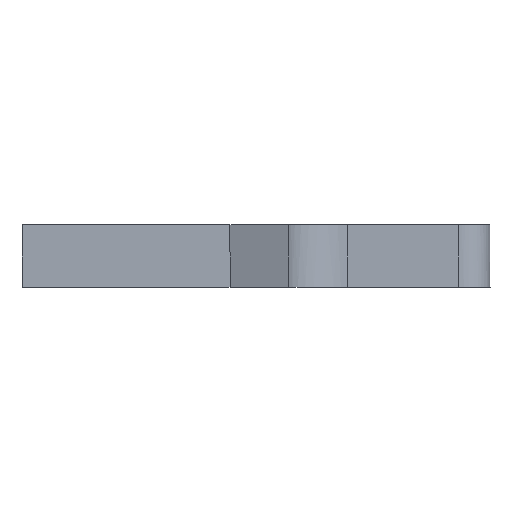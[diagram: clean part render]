
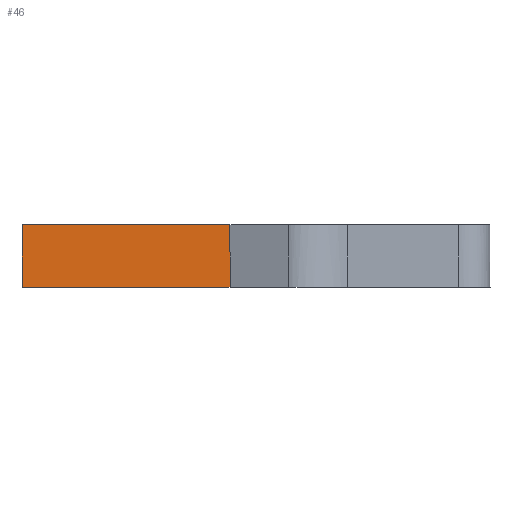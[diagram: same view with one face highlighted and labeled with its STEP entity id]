
A CAD part, left-side view. The second image highlights one B-rep face of the part: STEP entity #46.
In plain terms, the highlighted free-form (B-spline) face has degree [2, 1] with [3, 2] control points.
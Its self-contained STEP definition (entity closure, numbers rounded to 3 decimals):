
#46=ADVANCED_FACE('',(#84),#1423,.T.);
#84=FACE_OUTER_BOUND('',#122,.T.);
#122=EDGE_LOOP('',(#202,#203,#204,#205));
#202=ORIENTED_EDGE('',*,*,#1083,.T.);
#203=ORIENTED_EDGE('',*,*,#1084,.T.);
#204=ORIENTED_EDGE('',*,*,#1085,.T.);
#205=ORIENTED_EDGE('',*,*,#1081,.F.);
#379=(
BOUNDED_CURVE()
B_SPLINE_CURVE(1,(#2036,#2037),.UNSPECIFIED.,.F.,.F.)
B_SPLINE_CURVE_WITH_KNOTS((2,2),(0.,6.),.UNSPECIFIED.)
CURVE()
GEOMETRIC_REPRESENTATION_ITEM()
RATIONAL_B_SPLINE_CURVE((1.,1.))
REPRESENTATION_ITEM('')
);
#381=(
BOUNDED_CURVE()
B_SPLINE_CURVE(2,(#2047,#2048,#2049),.UNSPECIFIED.,.F.,.F.)
B_SPLINE_CURVE_WITH_KNOTS((3,3),(188.175,208.175),
 .UNSPECIFIED.)
CURVE()
GEOMETRIC_REPRESENTATION_ITEM()
RATIONAL_B_SPLINE_CURVE((1.,1.,1.))
REPRESENTATION_ITEM('')
);
#382=(
BOUNDED_CURVE()
B_SPLINE_CURVE(1,(#2052,#2053),.UNSPECIFIED.,.F.,.F.)
B_SPLINE_CURVE_WITH_KNOTS((2,2),(0.,6.),.UNSPECIFIED.)
CURVE()
GEOMETRIC_REPRESENTATION_ITEM()
RATIONAL_B_SPLINE_CURVE((1.,1.))
REPRESENTATION_ITEM('')
);
#383=(
BOUNDED_CURVE()
B_SPLINE_CURVE(2,(#2056,#2057,#2058),.UNSPECIFIED.,.F.,.F.)
B_SPLINE_CURVE_WITH_KNOTS((3,3),(-208.175,-188.175),
 .UNSPECIFIED.)
CURVE()
GEOMETRIC_REPRESENTATION_ITEM()
RATIONAL_B_SPLINE_CURVE((1.,1.,1.))
REPRESENTATION_ITEM('')
);
#459=(
BOUNDED_CURVE()
B_SPLINE_CURVE(2,(#2446,#2447,#2448),.UNSPECIFIED.,.F.,.F.)
B_SPLINE_CURVE_WITH_KNOTS((3,3),(188.175,208.175),
 .UNSPECIFIED.)
CURVE()
GEOMETRIC_REPRESENTATION_ITEM()
RATIONAL_B_SPLINE_CURVE((1.,1.,1.))
REPRESENTATION_ITEM('')
);
#480=(
BOUNDED_CURVE()
B_SPLINE_CURVE(2,(#2583,#2584,#2585),.UNSPECIFIED.,.F.,.F.)
B_SPLINE_CURVE_WITH_KNOTS((3,3),(-208.175,-188.175),
 .UNSPECIFIED.)
CURVE()
GEOMETRIC_REPRESENTATION_ITEM()
RATIONAL_B_SPLINE_CURVE((1.,1.,1.))
REPRESENTATION_ITEM('')
);
#549=PCURVE('',#1422,#765);
#552=PCURVE('',#1423,#768);
#553=PCURVE('',#1423,#769);
#554=PCURVE('',#1423,#770);
#555=PCURVE('',#1423,#771);
#559=PCURVE('',#1424,#775);
#645=PCURVE('',#1458,#861);
#678=PCURVE('',#1459,#894);
#765=DEFINITIONAL_REPRESENTATION('',(#1225),#2766);
#768=DEFINITIONAL_REPRESENTATION('',(#1228),#2766);
#769=DEFINITIONAL_REPRESENTATION('',(#1229),#2766);
#770=DEFINITIONAL_REPRESENTATION('',(#1230),#2766);
#771=DEFINITIONAL_REPRESENTATION('',(#1231),#2766);
#775=DEFINITIONAL_REPRESENTATION('',(#1235),#2766);
#861=DEFINITIONAL_REPRESENTATION('',(#459),#2766);
#894=DEFINITIONAL_REPRESENTATION('',(#480),#2766);
#973=SURFACE_CURVE('',#379,(#549,#555),.PCURVE_S1.);
#975=SURFACE_CURVE('',#381,(#552,#645),.PCURVE_S1.);
#976=SURFACE_CURVE('',#382,(#553,#559),.PCURVE_S1.);
#977=SURFACE_CURVE('',#383,(#554,#678),.PCURVE_S1.);
#1081=EDGE_CURVE('',#1370,#1371,#973,.T.);
#1083=EDGE_CURVE('',#1370,#1372,#975,.T.);
#1084=EDGE_CURVE('',#1372,#1373,#976,.T.);
#1085=EDGE_CURVE('',#1373,#1371,#977,.T.);
#1225=B_SPLINE_CURVE_WITH_KNOTS('',1,(#2038,#2039),.UNSPECIFIED.,.F.,.F.,
(2,2),(0.,6.),.UNSPECIFIED.);
#1228=B_SPLINE_CURVE_WITH_KNOTS('',1,(#2050,#2051),.UNSPECIFIED.,.F.,.F.,
(2,2),(188.175,208.175),.UNSPECIFIED.);
#1229=B_SPLINE_CURVE_WITH_KNOTS('',1,(#2054,#2055),.UNSPECIFIED.,.F.,.F.,
(2,2),(0.,6.),.UNSPECIFIED.);
#1230=B_SPLINE_CURVE_WITH_KNOTS('',1,(#2059,#2060),.UNSPECIFIED.,.F.,.F.,
(2,2),(-208.175,-188.175),.UNSPECIFIED.);
#1231=B_SPLINE_CURVE_WITH_KNOTS('',1,(#2061,#2062),.UNSPECIFIED.,.F.,.F.,
(2,2),(0.,6.),.UNSPECIFIED.);
#1235=B_SPLINE_CURVE_WITH_KNOTS('',1,(#2077,#2078),.UNSPECIFIED.,.F.,.F.,
(2,2),(0.,6.),.UNSPECIFIED.);
#1370=VERTEX_POINT('',#1849);
#1371=VERTEX_POINT('',#1850);
#1372=VERTEX_POINT('',#1851);
#1373=VERTEX_POINT('',#1852);
#1422=(
BOUNDED_SURFACE()
B_SPLINE_SURFACE(2,1,((#1517,#1518),(#1519,#1520),(#1521,#1522)),
 .UNSPECIFIED.,.F.,.F.,.F.)
B_SPLINE_SURFACE_WITH_KNOTS((3,3),(2,2),(174.175,188.175),
(0.,6.),.UNSPECIFIED.)
GEOMETRIC_REPRESENTATION_ITEM()
RATIONAL_B_SPLINE_SURFACE(((1.,1.),(1.,1.),(1.,1.)))
REPRESENTATION_ITEM('')
SURFACE()
);
#1423=(
BOUNDED_SURFACE()
B_SPLINE_SURFACE(2,1,((#1523,#1524),(#1525,#1526),(#1527,#1528)),
 .UNSPECIFIED.,.F.,.F.,.F.)
B_SPLINE_SURFACE_WITH_KNOTS((3,3),(2,2),(188.175,208.175),
(0.,6.),.UNSPECIFIED.)
GEOMETRIC_REPRESENTATION_ITEM()
RATIONAL_B_SPLINE_SURFACE(((1.,1.),(1.,1.),(1.,1.)))
REPRESENTATION_ITEM('')
SURFACE()
);
#1424=(
BOUNDED_SURFACE()
B_SPLINE_SURFACE(2,1,((#1529,#1530),(#1531,#1532),(#1533,#1534)),
 .UNSPECIFIED.,.F.,.F.,.F.)
B_SPLINE_SURFACE_WITH_KNOTS((3,3),(2,2),(208.175,225.987),
(0.,6.),.UNSPECIFIED.)
GEOMETRIC_REPRESENTATION_ITEM()
RATIONAL_B_SPLINE_SURFACE(((1.,1.),(1.,1.),(1.,1.)))
REPRESENTATION_ITEM('')
SURFACE()
);
#1458=PLANE('',#1489);
#1459=PLANE('',#1490);
#1489=AXIS2_PLACEMENT_3D('',#1719,#1503,$);
#1490=AXIS2_PLACEMENT_3D('',#1720,#1504,$);
#1503=DIRECTION('',(0.,0.,-1.));
#1504=DIRECTION('',(0.,0.,1.));
#1517=CARTESIAN_POINT('',(-497.,33.,-32.));
#1518=CARTESIAN_POINT('',(-497.,33.,-26.));
#1519=CARTESIAN_POINT('',(-504.,33.,-32.));
#1520=CARTESIAN_POINT('',(-504.,33.,-26.));
#1521=CARTESIAN_POINT('',(-511.,33.,-32.));
#1522=CARTESIAN_POINT('',(-511.,33.,-26.));
#1523=CARTESIAN_POINT('',(-511.,33.,-32.));
#1524=CARTESIAN_POINT('',(-511.,33.,-26.));
#1525=CARTESIAN_POINT('',(-511.,23.,-32.));
#1526=CARTESIAN_POINT('',(-511.,23.,-26.));
#1527=CARTESIAN_POINT('',(-511.,13.,-32.));
#1528=CARTESIAN_POINT('',(-511.,13.,-26.));
#1529=CARTESIAN_POINT('',(-511.,13.,-32.));
#1530=CARTESIAN_POINT('',(-511.,13.,-26.));
#1531=CARTESIAN_POINT('',(-502.551,10.184,-32.));
#1532=CARTESIAN_POINT('',(-502.551,10.184,-26.));
#1533=CARTESIAN_POINT('',(-494.103,7.368,-32.));
#1534=CARTESIAN_POINT('',(-494.103,7.368,-26.));
#1719=CARTESIAN_POINT('',(-522.875,-17.625,-32.));
#1720=CARTESIAN_POINT('',(-522.875,-17.625,-26.));
#1849=CARTESIAN_POINT('',(-511.,33.,-32.));
#1850=CARTESIAN_POINT('',(-511.,33.,-26.));
#1851=CARTESIAN_POINT('',(-511.,13.,-32.));
#1852=CARTESIAN_POINT('',(-511.,13.,-26.));
#2036=CARTESIAN_POINT('',(-511.,33.,-32.));
#2037=CARTESIAN_POINT('',(-511.,33.,-26.));
#2038=CARTESIAN_POINT('',(188.175,0.));
#2039=CARTESIAN_POINT('',(188.175,6.));
#2047=CARTESIAN_POINT('',(-511.,33.,-32.));
#2048=CARTESIAN_POINT('',(-511.,23.,-32.));
#2049=CARTESIAN_POINT('',(-511.,13.,-32.));
#2050=CARTESIAN_POINT('',(188.175,0.));
#2051=CARTESIAN_POINT('',(208.175,0.));
#2052=CARTESIAN_POINT('',(-511.,13.,-32.));
#2053=CARTESIAN_POINT('',(-511.,13.,-26.));
#2054=CARTESIAN_POINT('',(208.175,0.));
#2055=CARTESIAN_POINT('',(208.175,6.));
#2056=CARTESIAN_POINT('',(-511.,13.,-26.));
#2057=CARTESIAN_POINT('',(-511.,23.,-26.));
#2058=CARTESIAN_POINT('',(-511.,33.,-26.));
#2059=CARTESIAN_POINT('',(208.175,6.));
#2060=CARTESIAN_POINT('',(188.175,6.));
#2061=CARTESIAN_POINT('',(188.175,0.));
#2062=CARTESIAN_POINT('',(188.175,6.));
#2077=CARTESIAN_POINT('',(208.175,0.));
#2078=CARTESIAN_POINT('',(208.175,6.));
#2446=CARTESIAN_POINT('',(33.535,-30.205));
#2447=CARTESIAN_POINT('',(23.535,-30.205));
#2448=CARTESIAN_POINT('',(13.535,-30.205));
#2583=CARTESIAN_POINT('',(-30.205,13.535));
#2584=CARTESIAN_POINT('',(-30.205,23.535));
#2585=CARTESIAN_POINT('',(-30.205,33.535));
#2766=(
GEOMETRIC_REPRESENTATION_CONTEXT(2)
PARAMETRIC_REPRESENTATION_CONTEXT()
REPRESENTATION_CONTEXT('pspace','')
);
